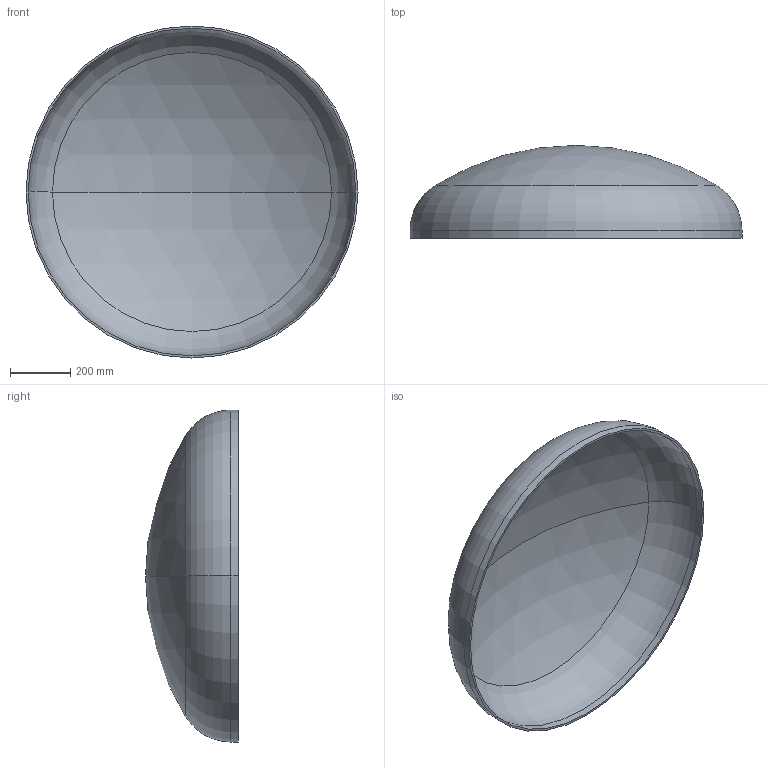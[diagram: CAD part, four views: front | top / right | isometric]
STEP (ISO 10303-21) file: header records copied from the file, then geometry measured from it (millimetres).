
FILE_DESCRIPTION (( 'STEP AP203' ), '1' );
FILE_NAME ('DIN 28013 Korbbogenform_-_Boden DIN 28013 - 1100 x 25 - I - s=7.step', '2016-07-01T08:59:55', ( '' ), ( '' ), 'SwSTEP 2.0', 'SolidWorks 2013', '' );
FILE_SCHEMA (( 'CONFIG_CONTROL_DESIGN' ));
Length unit declared in the file: millimetre
Products named in the file (1): DIN 28013 Korbbogenform_-_Boden DIN 28013 - 1100 x 25 - I - s=7
Bounding box: 1100 x 307.87 x 1100 mm (x, y, z)
Volume: 9743572.8 mm3; surface area: 2808015.8 mm2
Topology: 1 solids, 1 shells, 13 faces, 24 edges, 14 vertices
Faces by surface type: torus 4, cylinder 4, sphere 4, plane 1
Entity records: 407 total; most frequent: DIRECTION 72, CARTESIAN_POINT 52, ORIENTED_EDGE 48, AXIS2_PLACEMENT_3D 34, EDGE_CURVE 24, CIRCLE 20, VERTEX_POINT 14, EDGE_LOOP 14
